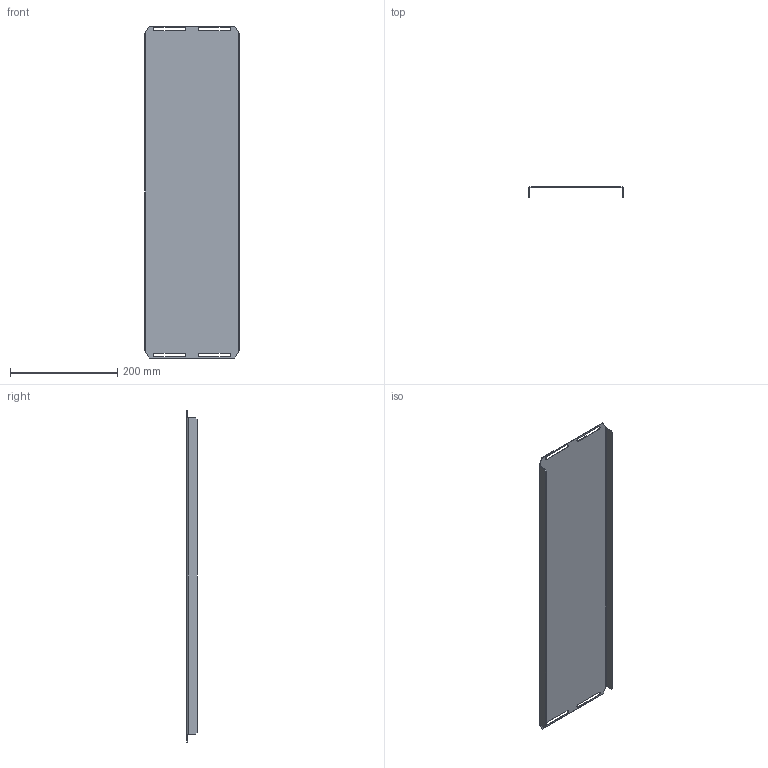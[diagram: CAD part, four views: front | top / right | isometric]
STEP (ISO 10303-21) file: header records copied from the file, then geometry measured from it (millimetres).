
FILE_DESCRIPTION (( 'STEP AP203' ), '1' );
FILE_NAME ('PKV 80 SH Ïàíåëü ñòàöèîíàðíàÿ.STEP', '2021-05-17T06:31:45', ( '' ), ( '' ), 'SwSTEP 2.0', 'SolidWorks 2018', '' );
FILE_SCHEMA (( 'CONFIG_CONTROL_DESIGN' ));
Length unit declared in the file: millimetre
Products named in the file (1): PKV 80 SH Ïàíåëü ñòàöèîíàðíàÿ
Bounding box: 177 x 19 x 620.5 mm (x, y, z)
Volume: 153764.7 mm3; surface area: 258852.3 mm2
Topology: 1 solids, 1 shells, 46 faces, 116 edges, 72 vertices
Faces by surface type: plane 30, cylinder 12, bspline 4
Entity records: 1561 total; most frequent: CARTESIAN_POINT 399, ORIENTED_EDGE 232, DIRECTION 202, EDGE_CURVE 116, LINE 84, VECTOR 84, VERTEX_POINT 72, AXIS2_PLACEMENT_3D 59
